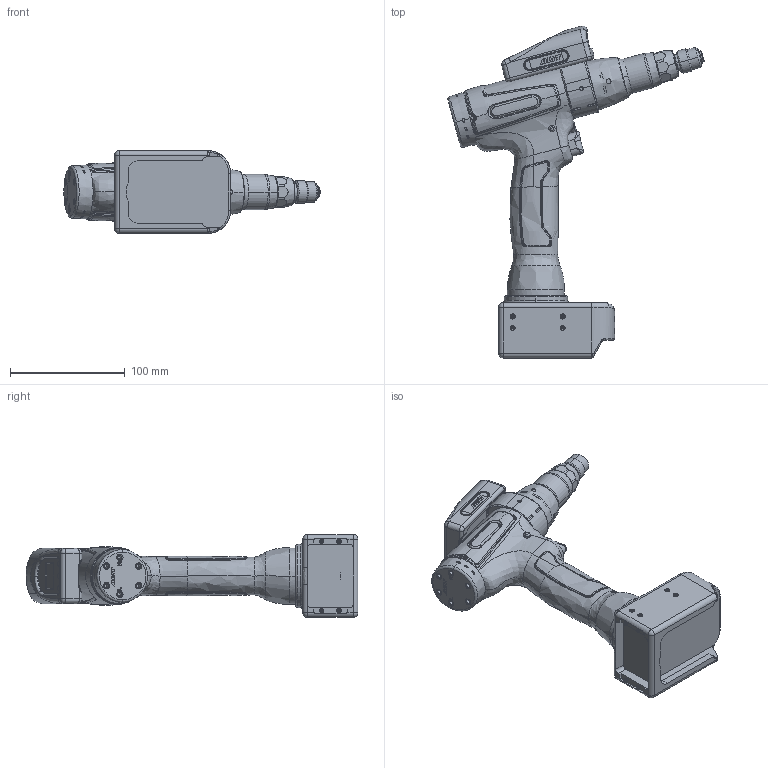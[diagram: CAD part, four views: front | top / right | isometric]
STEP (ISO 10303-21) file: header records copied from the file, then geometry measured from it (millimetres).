
FILE_DESCRIPTION (( 'STEP AP203' ), '1' );
FILE_NAME ('70252804_PSXSBW1006ZH14D.STEP', '2025-09-25T06:49:14', ( '' ), ( '' ), 'SwSTEP 2.0', 'SolidWorks 2020', '' );
FILE_SCHEMA (( 'CONFIG_CONTROL_DESIGN' ));
Length unit declared in the file: millimetre
Products named in the file (6): 70000140; 70252786; 70000160; 70086937; 70252804_PSXSBW1006ZH14D; 70252787
Assembly tree (5 placements, depth 2):
  70252804_PSXSBW1006ZH14D
    70252787
    70000140
    70000160
    70086937
    70252786
Bounding box: 222.8 x 288.69 x 72 mm (x, y, z)
Volume: 836127.9 mm3; surface area: 130563.7 mm2
Topology: 5 solids, 25 shells, 2698 faces, 6820 edges, 4204 vertices
Faces by surface type: cylinder 941, plane 686, bspline 469, cone 409, torus 166, sphere 27
Entity records: 130417 total; most frequent: CARTESIAN_POINT 69766, ORIENTED_EDGE 13502, DIRECTION 11295, EDGE_CURVE 6751, AXIS2_PLACEMENT_3D 4495, VERTEX_POINT 4199, EDGE_LOOP 2866, ADVANCED_FACE 2698
